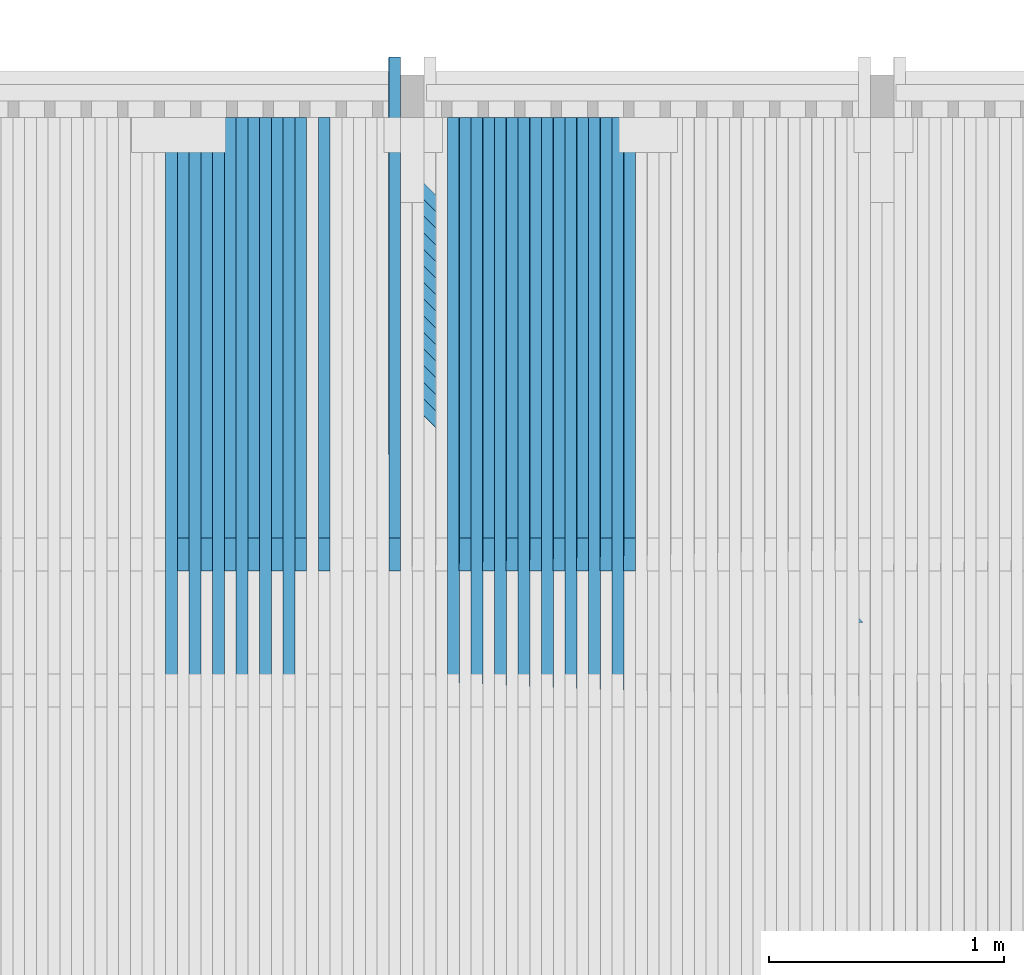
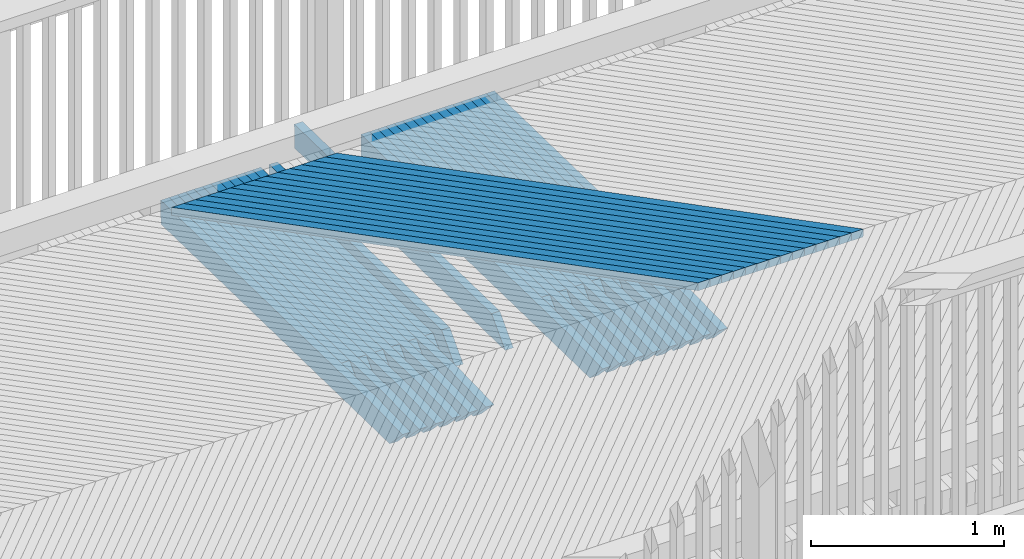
# One storey, part 34 of 52: 44 beams.
"""IFC2X3 building model written with IfcOpenShell, lengths in millimetres."""

from ifc_helpers import new_model, si_unit, frame, origin_with_axes, place, context, subcontext, project, spatial, faceted_brep, material, type_object, element, save


model = new_model("IFC2X3")

# Units and contexts
model_context = context("Model", 3, precision=1e-05, world=origin_with_axes())
body_context = subcontext(model_context, "Body", "Model", "MODEL_VIEW")
ifc_project = project(units=[si_unit("LENGTHUNIT", "METRE", prefix="MILLI"), si_unit("AREAUNIT", "SQUARE_METRE"), si_unit("VOLUMEUNIT", "CUBIC_METRE"), si_unit("MASSUNIT", "GRAM", prefix="KILO"), si_unit("TIMEUNIT", "SECOND"), si_unit("PLANEANGLEUNIT", "RADIAN"), si_unit("SOLIDANGLEUNIT", "STERADIAN"), si_unit("THERMODYNAMICTEMPERATUREUNIT", "DEGREE_CELSIUS"), si_unit("LUMINOUSINTENSITYUNIT", "LUMEN")], contexts=[model_context])

# Site, building, storey
site_placement = place(None, origin_with_axes())
site = spatial("IfcSite", under=ifc_project, at=site_placement, Name="Undefined", CompositionType="ELEMENT")
building_placement = place(site_placement, origin_with_axes())
building = spatial("IfcBuilding", under=site, at=building_placement, Name="Undefined", CompositionType="ELEMENT")
storey_placement = place(building_placement, origin_with_axes())
storey = spatial("IfcBuildingStorey", under=building, at=storey_placement, Name="Undefined", CompositionType="ELEMENT", Elevation=0.0)

# Beams
ifc_material = material(Name="TIMBER/Timber_Undefined")
beam_type_1 = type_object("IfcBeamType", Name="50*50", PredefinedType="NOTDEFINED")
for number, where, z_axis, x_axis, name in (
    (1, (11884.1639920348, 2365.49989967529, 3223.59371167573), (0.707016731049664, 0.706981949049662, -0.0174317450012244), (-0.707181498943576, 0.706948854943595, -0.0108463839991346), "BEAM"),
    (2, (11813.441203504, 2365.49989967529, 3224.04579456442), (0.707018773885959, 0.706981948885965, -0.0173486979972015), (-0.707180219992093, 0.706948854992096, -0.0109294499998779), "BEAM"),
    (3, (11742.718362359, 2365.49989967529, 3224.48957030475), (0.707020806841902, 0.70698194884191, -0.0172656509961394), (-0.707178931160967, 0.706948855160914, -0.0110125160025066), "BEAM"),
    (4, (11671.9954695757, 2365.49989967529, 3224.92503889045), (0.707022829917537, 0.706981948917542, -0.017182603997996), (-0.707177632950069, 0.706948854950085, -0.0110955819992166), "BEAM"),
    (5, (11601.2725261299, 2365.49989967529, 3225.35220031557), (0.707024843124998, 0.706981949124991, -0.0170995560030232), (-0.707176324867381, 0.706948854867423, -0.0111786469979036), "BEAM"),
    (6, (11530.5495329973, 2365.49989967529, 3225.7710545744), (0.707026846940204, 0.706981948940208, -0.0170165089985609), (-0.707175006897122, 0.706948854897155, -0.0112617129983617), "BEAM"),
    (7, (11459.8264911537, 2365.49989967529, 3226.18160166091), (0.7070288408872, 0.706981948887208, -0.0169334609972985), (-0.707173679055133, 0.706948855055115, -0.0113447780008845), "BEAM"),
    (8, (11389.1034015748, 2365.49989967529, 3226.58384156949), (0.707030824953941, 0.706981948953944, -0.0168504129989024), (-0.70717234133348, 0.706948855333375, -0.011427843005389), "BEAM"),
    (9, (11318.3802652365, 2365.49989967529, 3226.97777429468), (0.707032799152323, 0.706981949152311, -0.0167673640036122), (-0.707170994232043, 0.70694885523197, -0.011510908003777), "BEAM"),
    (10, (11247.6570831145, 2365.49989967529, 3227.363399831), (0.707034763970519, 0.706981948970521, -0.0166843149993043), (-0.707169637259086, 0.706948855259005, -0.0115939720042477), "BEAM"),
    (11, (11176.9338561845, 2365.49989967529, 3227.7407181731), (0.707036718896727, 0.706981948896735, -0.0166012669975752), (-0.707168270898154, 0.706948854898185, -0.0116770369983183), "BEAM"),
    (12, (11106.2105854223, 2365.49989967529, 3228.10972931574), (0.707038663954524, 0.706981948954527, -0.0165182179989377), (-0.707166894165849, 0.706948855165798, -0.011760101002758), "BEAM"),
    (13, (11035.4872718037, 2365.49989967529, 3228.47043325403), (0.707040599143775, 0.706981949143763, -0.016435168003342), (-0.707165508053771, 0.706948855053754, -0.0118431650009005), "BEAM"),
    (14, (10964.7639163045, 2365.49989967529, 3228.82282998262), (0.707042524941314, 0.706981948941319, -0.0163521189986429), (-0.707164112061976, 0.706948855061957, -0.0119262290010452), "BEAM"),
):
    element("IfcBeam", number, at=place(storey_placement, frame(where, z_axis=z_axis, x_axis=x_axis)), inside=storey, type_object=beam_type_1, material=ifc_material, Name=name, ObjectType="50*50", context=body_context, shape_type="Brep", body=[
        faceted_brep([(23.5869248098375, 25.0, -25.0000000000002), (-26.4154158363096, 25.0000000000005, 24.9999999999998), (2802.92643296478, 25.0, 24.9999999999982), (2852.92877373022, 25.0000000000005, -25.0), (-25.0011704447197, -25.0, 24.9999999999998), (2804.3406783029, -25.0000000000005, 24.9999999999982), (25.0011701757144, -25.0, -25.0), (2854.34301907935, -24.9999999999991, -25.0)], [[[0, 1, 2, 3]], [[1, 4, 5, 2]], [[4, 6, 7, 5]], [[6, 0, 3, 7]], [[5, 7, 3, 2]], [[6, 4, 1, 0]]]),
    ])
beam_type_2 = type_object("IfcBeamType", Name="150*50", PredefinedType="NOTDEFINED")
beam_1_placement = place(storey_placement, frame((10875.1411031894, 4513.4953923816, 3086.28180497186), z_axis=(0.00469590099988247, 0.0199960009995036, 0.99978903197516), x_axis=(9.39180000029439e-05, -0.999800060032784, 0.0199957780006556)))
element("IfcBeam", 15, at=beam_1_placement, inside=storey, type_object=beam_type_2, material=ifc_material, Name="BEAM", ObjectType="150*50", context=body_context, shape_type="Brep", body=[
    faceted_brep([(-1.67788130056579e-07, -24.9999999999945, -74.9999999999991), (-1.67787220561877e-07, 25.0000000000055, -75.0), (2375.00494422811, 25.0000000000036, -74.9999999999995), (2375.0049444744, -24.9999999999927, -74.9999999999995), (1.67786311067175e-07, -24.9999999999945, 75.0000000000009), (1.67786311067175e-07, 25.0000000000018, 75.0), (2150.42515052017, 25.0000000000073, 75.0), (2510.59248715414, 25.0000000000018, 60.5875433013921), (2510.5924871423, -24.9999999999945, 60.5875430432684), (2150.42514405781, -24.9999999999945, 75.0000000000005)], [[[0, 1, 2, 3]], [[0, 4, 5, 1]], [[2, 1, 5, 6, 7]], [[3, 2, 7, 8]], [[4, 0, 3, 8, 9]], [[5, 4, 9, 6]], [[8, 7, 6, 9]]]),
])
beam_2_placement = place(storey_placement, frame((10925.1605446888, 4513.49539238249, 3086.03855962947), z_axis=(0.00486202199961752, 0.0199960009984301, 0.999788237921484), x_axis=(9.72400000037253e-05, -0.999800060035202, 0.019995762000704)))
element("IfcBeam", 16, at=beam_2_placement, inside=storey, type_object=beam_type_2, material=ifc_material, Name="BEAM", ObjectType="150*50", context=body_context, shape_type="Brep", body=[
    faceted_brep([(-1.67788130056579e-07, -24.9999999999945, -74.9999999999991), (1.67786311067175e-07, -24.9999999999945, 75.0000000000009), (1.67786311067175e-07, 25.0000000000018, 75.0), (-1.67787220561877e-07, 25.0000000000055, -75.0), (1789.96936408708, 24.9999999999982, 75.0000000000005), (1928.42646328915, 24.9999999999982, -74.9999999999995), (1928.42646353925, -25.0, -75.0), (1789.96936433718, -25.0000000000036, 74.9999999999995)], [[[0, 1, 2, 3]], [[3, 2, 4, 5]], [[0, 3, 5, 6]], [[1, 0, 6, 7]], [[2, 1, 7, 4]], [[5, 4, 7, 6]]]),
])
beam_3_placement = place(storey_placement, frame((10775.1221713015, 4513.4953923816, 3086.75121569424), z_axis=(0.00452978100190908, 0.0199960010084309, 0.999789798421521), x_axis=(9.05950000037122e-05, -0.999800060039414, 0.0199957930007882)))
element("IfcBeam", 17, at=beam_3_placement, inside=storey, type_object=beam_type_2, material=ifc_material, Name="BEAM", ObjectType="150*50", context=body_context, shape_type="Brep", body=[
    faceted_brep([(-1.67788130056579e-07, -24.9999999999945, -74.9999999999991), (-1.67787220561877e-07, 25.0000000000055, -75.0), (2375.00494422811, 25.0000000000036, -74.9999999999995), (2375.0049444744, -24.9999999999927, -74.9999999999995), (1.67786311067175e-07, -24.9999999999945, 75.0000000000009), (1.67786311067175e-07, 25.0000000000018, 75.0), (2150.42515052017, 25.0000000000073, 75.0), (2510.59248715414, 25.0000000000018, 60.5875433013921), (2510.5924871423, -24.9999999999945, 60.5875430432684), (2150.42514405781, -24.9999999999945, 75.0000000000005)], [[[0, 1, 2, 3]], [[0, 4, 5, 1]], [[2, 1, 5, 6, 7]], [[3, 2, 7, 8]], [[4, 0, 3, 8, 9]], [[5, 4, 9, 6]], [[8, 7, 6, 9]]]),
])
beam_4_placement = place(storey_placement, frame((10825.141652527, 4513.49539238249, 3086.51628135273), z_axis=(0.00469590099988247, 0.0199960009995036, 0.99978903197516), x_axis=(9.39180000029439e-05, -0.999800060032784, 0.0199957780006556)))
element("IfcBeam", 18, at=beam_4_placement, inside=storey, type_object=beam_type_2, material=ifc_material, Name="BEAM", ObjectType="150*50", context=body_context, shape_type="Brep", body=[
    faceted_brep([(-1.67788130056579e-07, -24.9999999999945, -74.9999999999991), (1.67786311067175e-07, -24.9999999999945, 75.0000000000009), (1.67786311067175e-07, 25.0000000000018, 75.0), (-1.67787220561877e-07, 25.0000000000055, -75.0), (1789.96936408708, 24.9999999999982, 75.0000000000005), (1928.42646328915, 24.9999999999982, -74.9999999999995), (1928.42646353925, -25.0, -75.0), (1789.96936433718, -25.0000000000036, 74.9999999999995)], [[[0, 1, 2, 3]], [[3, 2, 4, 5]], [[0, 3, 5, 6]], [[1, 0, 6, 7]], [[2, 1, 7, 4]], [[5, 4, 7, 6]]]),
])
beam_5_placement = place(storey_placement, frame((10675.1031627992, 4513.4953923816, 3087.20400773), z_axis=(0.00436366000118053, 0.019996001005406, 0.999790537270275), x_axis=(8.72730000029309e-05, -0.999800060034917, 0.0199958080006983)))
element("IfcBeam", 19, at=beam_5_placement, inside=storey, type_object=beam_type_2, material=ifc_material, Name="BEAM", ObjectType="150*50", context=body_context, shape_type="Brep", body=[
    faceted_brep([(-1.67788130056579e-07, -24.9999999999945, -74.9999999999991), (-1.67787220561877e-07, 25.0000000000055, -75.0), (2375.00494422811, 25.0000000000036, -74.9999999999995), (2375.0049444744, -24.9999999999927, -74.9999999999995), (1.67786311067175e-07, -24.9999999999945, 75.0000000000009), (1.67786311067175e-07, 25.0000000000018, 75.0), (2150.42515052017, 25.0000000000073, 75.0), (2510.59248715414, 25.0000000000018, 60.5875433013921), (2510.5924871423, -24.9999999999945, 60.5875430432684), (2150.42514405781, -24.9999999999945, 75.0000000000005)], [[[0, 1, 2, 3]], [[0, 4, 5, 1]], [[2, 1, 5, 6, 7]], [[3, 2, 7, 8]], [[4, 0, 3, 8, 9]], [[5, 4, 9, 6]], [[8, 7, 6, 9]]]),
])
beam_6_placement = place(storey_placement, frame((10725.1226823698, 4513.49539238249, 3086.9773843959), z_axis=(0.00452978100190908, 0.0199960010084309, 0.999789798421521), x_axis=(9.05950000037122e-05, -0.999800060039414, 0.0199957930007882)))
element("IfcBeam", 20, at=beam_6_placement, inside=storey, type_object=beam_type_2, material=ifc_material, Name="BEAM", ObjectType="150*50", context=body_context, shape_type="Brep", body=[
    faceted_brep([(-1.67788130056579e-07, -24.9999999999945, -74.9999999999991), (1.67786311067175e-07, -24.9999999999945, 75.0000000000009), (1.67786311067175e-07, 25.0000000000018, 75.0), (-1.67787220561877e-07, 25.0000000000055, -75.0), (1789.96936408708, 24.9999999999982, 75.0000000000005), (1928.42646328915, 24.9999999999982, -74.9999999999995), (1928.42646353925, -25.0, -75.0), (1789.96936433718, -25.0000000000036, 74.9999999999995)], [[[0, 1, 2, 3]], [[3, 2, 4, 5]], [[0, 3, 5, 6]], [[1, 0, 6, 7]], [[2, 1, 7, 4]], [[5, 4, 7, 6]]]),
])
beam_7_placement = place(storey_placement, frame((10575.0840804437, 4513.4953923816, 3087.64018106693), z_axis=(0.00419753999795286, 0.0199960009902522, 0.99979124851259), x_axis=(8.39510000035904e-05, -0.999800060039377, 0.0199958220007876)))
element("IfcBeam", 21, at=beam_7_placement, inside=storey, type_object=beam_type_2, material=ifc_material, Name="BEAM", ObjectType="150*50", context=body_context, shape_type="Brep", body=[
    faceted_brep([(-1.67788130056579e-07, -24.9999999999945, -74.9999999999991), (-1.67787220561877e-07, 25.0000000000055, -75.0), (2375.00494422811, 25.0000000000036, -74.9999999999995), (2375.0049444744, -24.9999999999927, -74.9999999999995), (1.67786311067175e-07, -24.9999999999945, 75.0000000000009), (1.67786311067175e-07, 25.0000000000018, 75.0), (2150.42515052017, 25.0000000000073, 75.0), (2510.59248715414, 25.0000000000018, 60.5875433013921), (2510.5924871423, -24.9999999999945, 60.5875430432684), (2150.42514405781, -24.9999999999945, 75.0000000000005)], [[[0, 1, 2, 3]], [[0, 4, 5, 1]], [[2, 1, 5, 6, 7]], [[3, 2, 7, 8]], [[4, 0, 3, 8, 9]], [[5, 4, 9, 6]], [[8, 7, 6, 9]]]),
])
beam_8_placement = place(storey_placement, frame((10625.1036369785, 4513.49539238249, 3087.4218687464), z_axis=(0.00436366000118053, 0.019996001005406, 0.999790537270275), x_axis=(8.72730000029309e-05, -0.999800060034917, 0.0199958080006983)))
element("IfcBeam", 22, at=beam_8_placement, inside=storey, type_object=beam_type_2, material=ifc_material, Name="BEAM", ObjectType="150*50", context=body_context, shape_type="Brep", body=[
    faceted_brep([(-1.67788130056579e-07, -24.9999999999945, -74.9999999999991), (1.67786311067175e-07, -24.9999999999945, 75.0000000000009), (1.67786311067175e-07, 25.0000000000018, 75.0), (-1.67787220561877e-07, 25.0000000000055, -75.0), (1789.96936408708, 24.9999999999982, 75.0000000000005), (1928.42646328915, 24.9999999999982, -74.9999999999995), (1928.42646353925, -25.0, -75.0), (1789.96936433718, -25.0000000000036, 74.9999999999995)], [[[0, 1, 2, 3]], [[3, 2, 4, 5]], [[0, 3, 5, 6]], [[1, 0, 6, 7]], [[2, 1, 7, 4]], [[5, 4, 7, 6]]]),
])
beam_9_placement = place(storey_placement, frame((10475.0649269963, 4513.4953923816, 3088.05973569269), z_axis=(0.00403141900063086, 0.0199960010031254, 0.999791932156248), x_axis=(8.06280000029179e-05, -0.999800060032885, 0.0199958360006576)))
element("IfcBeam", 23, at=beam_9_placement, inside=storey, type_object=beam_type_2, material=ifc_material, Name="BEAM", ObjectType="150*50", context=body_context, shape_type="Brep", body=[
    faceted_brep([(-1.67788130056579e-07, -24.9999999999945, -74.9999999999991), (-1.67787220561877e-07, 25.0000000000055, -75.0), (2375.00494422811, 25.0000000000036, -74.9999999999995), (2375.0049444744, -24.9999999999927, -74.9999999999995), (1.67786311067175e-07, -24.9999999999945, 75.0000000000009), (1.67786311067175e-07, 25.0000000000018, 75.0), (2150.42515052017, 25.0000000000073, 75.0), (2510.59248715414, 25.0000000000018, 60.5875433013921), (2510.5924871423, -24.9999999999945, 60.5875430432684), (2150.42514405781, -24.9999999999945, 75.0000000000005)], [[[0, 1, 2, 3]], [[0, 4, 5, 1]], [[2, 1, 5, 6, 7]], [[3, 2, 7, 8]], [[4, 0, 3, 8, 9]], [[5, 4, 9, 6]], [[8, 7, 6, 9]]]),
])
beam_10_placement = place(storey_placement, frame((10525.0845191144, 4513.49539238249, 3087.84973439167), z_axis=(0.00419753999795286, 0.0199960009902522, 0.99979124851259), x_axis=(8.39510000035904e-05, -0.999800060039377, 0.0199958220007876)))
element("IfcBeam", 24, at=beam_10_placement, inside=storey, type_object=beam_type_2, material=ifc_material, Name="BEAM", ObjectType="150*50", context=body_context, shape_type="Brep", body=[
    faceted_brep([(-1.67788130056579e-07, -24.9999999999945, -74.9999999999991), (1.67786311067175e-07, -24.9999999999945, 75.0000000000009), (1.67786311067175e-07, 25.0000000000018, 75.0), (-1.67787220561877e-07, 25.0000000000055, -75.0), (1789.96936408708, 24.9999999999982, 75.0000000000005), (1928.42646328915, 24.9999999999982, -74.9999999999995), (1928.42646353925, -25.0, -75.0), (1789.96936433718, -25.0000000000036, 74.9999999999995)], [[[0, 1, 2, 3]], [[3, 2, 4, 5]], [[0, 3, 5, 6]], [[1, 0, 6, 7]], [[2, 1, 7, 4]], [[5, 4, 7, 6]]]),
])
beam_11_placement = place(storey_placement, frame((10375.0457052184, 4513.4953923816, 3088.46267159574), z_axis=(0.00386529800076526, 0.0199960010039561, 0.99979258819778), x_axis=(7.73060000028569e-05, -0.999800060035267, 0.0199958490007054)))
element("IfcBeam", 25, at=beam_11_placement, inside=storey, type_object=beam_type_2, material=ifc_material, Name="BEAM", ObjectType="150*50", context=body_context, shape_type="Brep", body=[
    faceted_brep([(-1.67788130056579e-07, -24.9999999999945, -74.9999999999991), (-1.67787220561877e-07, 25.0000000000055, -75.0), (2375.00494422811, 25.0000000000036, -74.9999999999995), (2375.0049444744, -24.9999999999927, -74.9999999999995), (1.67786311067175e-07, -24.9999999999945, 75.0000000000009), (1.67786311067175e-07, 25.0000000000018, 75.0), (2150.42515052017, 25.0000000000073, 75.0), (2510.59248715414, 25.0000000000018, 60.5875433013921), (2510.5924871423, -24.9999999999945, 60.5875430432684), (2150.42514405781, -24.9999999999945, 75.0000000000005)], [[[0, 1, 2, 3]], [[0, 4, 5, 1]], [[2, 1, 5, 6, 7]], [[3, 2, 7, 8]], [[4, 0, 3, 8, 9]], [[5, 4, 9, 6]], [[8, 7, 6, 9]]]),
])
beam_12_placement = place(storey_placement, frame((10425.0653315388, 4513.49539238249, 3088.26098132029), z_axis=(0.00403141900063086, 0.0199960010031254, 0.999791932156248), x_axis=(8.06280000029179e-05, -0.999800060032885, 0.0199958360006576)))
element("IfcBeam", 26, at=beam_12_placement, inside=storey, type_object=beam_type_2, material=ifc_material, Name="BEAM", ObjectType="150*50", context=body_context, shape_type="Brep", body=[
    faceted_brep([(-1.67788130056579e-07, -24.9999999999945, -74.9999999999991), (1.67786311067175e-07, -24.9999999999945, 75.0000000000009), (1.67786311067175e-07, 25.0000000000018, 75.0), (-1.67787220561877e-07, 25.0000000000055, -75.0), (1789.96936408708, 24.9999999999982, 75.0000000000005), (1928.42646328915, 24.9999999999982, -74.9999999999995), (1928.42646353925, -25.0, -75.0), (1789.96936433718, -25.0000000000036, 74.9999999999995)], [[[0, 1, 2, 3]], [[3, 2, 4, 5]], [[0, 3, 5, 6]], [[1, 0, 6, 7]], [[2, 1, 7, 4]], [[5, 4, 7, 6]]]),
])
beam_13_placement = place(storey_placement, frame((10275.0264178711, 4513.4953923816, 3088.84898876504), z_axis=(0.00369917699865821, 0.0199960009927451, 0.999793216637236), x_axis=(7.39830000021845e-05, -0.999800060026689, 0.0199958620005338)))
element("IfcBeam", 27, at=beam_13_placement, inside=storey, type_object=beam_type_2, material=ifc_material, Name="BEAM", ObjectType="150*50", context=body_context, shape_type="Brep", body=[
    faceted_brep([(-1.67788130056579e-07, -24.9999999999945, -74.9999999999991), (-1.67787220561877e-07, 25.0000000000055, -75.0), (2375.00494422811, 25.0000000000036, -74.9999999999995), (2375.0049444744, -24.9999999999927, -74.9999999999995), (1.67786311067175e-07, -24.9999999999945, 75.0000000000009), (1.67786311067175e-07, 25.0000000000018, 75.0), (2150.42515052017, 25.0000000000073, 75.0), (2510.59248715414, 25.0000000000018, 60.5875433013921), (2510.5924871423, -24.9999999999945, 60.5875430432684), (2150.42514405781, -24.9999999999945, 75.0000000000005)], [[[0, 1, 2, 3]], [[0, 4, 5, 1]], [[2, 1, 5, 6, 7]], [[3, 2, 7, 8]], [[4, 0, 3, 8, 9]], [[5, 4, 9, 6]], [[8, 7, 6, 9]]]),
])
beam_14_placement = place(storey_placement, frame((10325.046077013, 4513.49539238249, 3088.65560952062), z_axis=(0.00386529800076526, 0.0199960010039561, 0.99979258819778), x_axis=(7.73060000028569e-05, -0.999800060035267, 0.0199958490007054)))
element("IfcBeam", 28, at=beam_14_placement, inside=storey, type_object=beam_type_2, material=ifc_material, Name="BEAM", ObjectType="150*50", context=body_context, shape_type="Brep", body=[
    faceted_brep([(-1.67788130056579e-07, -24.9999999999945, -74.9999999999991), (1.67786311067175e-07, -24.9999999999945, 75.0000000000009), (1.67786311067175e-07, 25.0000000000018, 75.0), (-1.67787220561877e-07, 25.0000000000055, -75.0), (1789.96936408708, 24.9999999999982, 75.0000000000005), (1928.42646328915, 24.9999999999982, -74.9999999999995), (1928.42646353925, -25.0, -75.0), (1789.96936433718, -25.0000000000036, 74.9999999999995)], [[[0, 1, 2, 3]], [[3, 2, 4, 5]], [[0, 3, 5, 6]], [[1, 0, 6, 7]], [[2, 1, 7, 4]], [[5, 4, 7, 6]]]),
])
beam_15_placement = place(storey_placement, frame((10175.0070677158, 4513.4953923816, 3089.21868718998), z_axis=(0.00353305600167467, 0.0199960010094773, 0.999793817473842), x_axis=(7.06610000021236e-05, -0.999800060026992, 0.0199958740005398)))
element("IfcBeam", 29, at=beam_15_placement, inside=storey, type_object=beam_type_2, material=ifc_material, Name="BEAM", ObjectType="150*50", context=body_context, shape_type="Brep", body=[
    faceted_brep([(-1.67788130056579e-07, -24.9999999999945, -74.9999999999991), (-1.67787220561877e-07, 25.0000000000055, -75.0), (2375.00494422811, 25.0000000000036, -74.9999999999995), (2375.0049444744, -24.9999999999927, -74.9999999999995), (1.67786311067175e-07, -24.9999999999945, 75.0000000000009), (1.67786311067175e-07, 25.0000000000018, 75.0), (2150.42515052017, 25.0000000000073, 75.0), (2510.59248715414, 25.0000000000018, 60.5875433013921), (2510.5924871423, -24.9999999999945, 60.5875430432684), (2150.42514405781, -24.9999999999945, 75.0000000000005)], [[[0, 1, 2, 3]], [[0, 4, 5, 1]], [[2, 1, 5, 6, 7]], [[3, 2, 7, 8]], [[4, 0, 3, 8, 9]], [[5, 4, 9, 6]], [[8, 7, 6, 9]]]),
])
for number, where, z_axis, x_axis, name in (
    (30, (10225.0267582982, 4513.49539238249, 3089.03361898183), (0.00369917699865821, 0.0199960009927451, 0.999793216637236), (7.39830000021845e-05, -0.999800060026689, 0.0199958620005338), "BEAM"),
    (31, (9625.5096525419, 4513.49539238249, 3090.9530804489), (0.00270244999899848, 0.0199960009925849, 0.999796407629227), (5.40480000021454e-05, -0.999800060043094, 0.0199959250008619), "BEAM"),
):
    element("IfcBeam", number, at=place(storey_placement, frame(where, z_axis=z_axis, x_axis=x_axis)), inside=storey, type_object=beam_type_2, material=ifc_material, Name=name, ObjectType="150*50", context=body_context, shape_type="Brep", body=[
        faceted_brep([(-1.67788130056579e-07, -24.9999999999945, -74.9999999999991), (1.67786311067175e-07, -24.9999999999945, 75.0000000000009), (1.67786311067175e-07, 25.0000000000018, 75.0), (-1.67787220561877e-07, 25.0000000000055, -75.0), (1789.96936408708, 24.9999999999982, 75.0000000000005), (1928.42646328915, 24.9999999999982, -74.9999999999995), (1928.42646353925, -25.0, -75.0), (1789.96936433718, -25.0000000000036, 74.9999999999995)], [[[0, 1, 2, 3]], [[3, 2, 4, 5]], [[0, 3, 5, 6]], [[1, 0, 6, 7]], [[2, 1, 7, 4]], [[5, 4, 7, 6]]]),
    ])
beam_16_placement = place(storey_placement, frame((9475.470089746, 4513.4953923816, 3091.34174898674), z_axis=(0.00237020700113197, 0.0199960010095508, 0.999797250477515), x_axis=(4.74040000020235e-05, -0.999800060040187, 0.0199959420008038)))
element("IfcBeam", 32, at=beam_16_placement, inside=storey, type_object=beam_type_2, material=ifc_material, Name="BEAM", ObjectType="150*50", context=body_context, shape_type="Brep", body=[
    faceted_brep([(-1.67788130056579e-07, -24.9999999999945, -74.9999999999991), (-1.67787220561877e-07, 25.0000000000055, -75.0), (2375.00494422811, 25.0000000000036, -74.9999999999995), (2375.0049444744, -24.9999999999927, -74.9999999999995), (1.67786311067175e-07, -24.9999999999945, 75.0000000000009), (1.67786311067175e-07, 25.0000000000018, 75.0), (2150.42515052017, 25.0000000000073, 75.0), (2510.59248715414, 25.0000000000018, 60.5875433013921), (2510.5924871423, -24.9999999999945, 60.5875430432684), (2150.42514405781, -24.9999999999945, 75.0000000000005)], [[[0, 1, 2, 3]], [[0, 4, 5, 1]], [[2, 1, 5, 6, 7]], [[3, 2, 7, 8]], [[4, 0, 3, 8, 9]], [[5, 4, 9, 6]], [[8, 7, 6, 9]]]),
])
beam_17_placement = place(storey_placement, frame((9525.48996174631, 4513.49539238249, 3091.21485816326), z_axis=(0.0025363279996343, 0.0199960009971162, 0.999796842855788), x_axis=(5.07260000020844e-05, -0.999800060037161, 0.0199959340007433)))
element("IfcBeam", 33, at=beam_17_placement, inside=storey, type_object=beam_type_2, material=ifc_material, Name="BEAM", ObjectType="150*50", context=body_context, shape_type="Brep", body=[
    faceted_brep([(-1.67788130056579e-07, -24.9999999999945, -74.9999999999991), (1.67786311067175e-07, -24.9999999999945, 75.0000000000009), (1.67786311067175e-07, 25.0000000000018, 75.0), (-1.67787220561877e-07, 25.0000000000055, -75.0), (1789.96936408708, 24.9999999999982, 75.0000000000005), (1928.42646328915, 24.9999999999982, -74.9999999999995), (1928.42646353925, -25.0, -75.0), (1789.96936433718, -25.0000000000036, 74.9999999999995)], [[[0, 1, 2, 3]], [[3, 2, 4, 5]], [[0, 3, 5, 6]], [[1, 0, 6, 7]], [[2, 1, 7, 4]], [[5, 4, 7, 6]]]),
])
beam_18_placement = place(storey_placement, frame((9375.45033644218, 4513.4953923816, 3091.57859682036), z_axis=(0.00220408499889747, 0.0199960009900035, 0.999797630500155), x_axis=(4.4081000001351e-05, -0.999800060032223, 0.0199959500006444)))
element("IfcBeam", 34, at=beam_18_placement, inside=storey, type_object=beam_type_2, material=ifc_material, Name="BEAM", ObjectType="150*50", context=body_context, shape_type="Brep", body=[
    faceted_brep([(-1.67788130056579e-07, -24.9999999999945, -74.9999999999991), (-1.67787220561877e-07, 25.0000000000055, -75.0), (2375.00494422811, 25.0000000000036, -74.9999999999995), (2375.0049444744, -24.9999999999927, -74.9999999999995), (1.67786311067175e-07, -24.9999999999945, 75.0000000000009), (1.67786311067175e-07, 25.0000000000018, 75.0), (2150.42515052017, 25.0000000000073, 75.0), (2510.59248715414, 25.0000000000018, 60.5875433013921), (2510.5924871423, -24.9999999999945, 60.5875430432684), (2150.42514405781, -24.9999999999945, 75.0000000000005)], [[[0, 1, 2, 3]], [[0, 4, 5, 1]], [[2, 1, 5, 6, 7]], [[3, 2, 7, 8]], [[4, 0, 3, 8, 9]], [[5, 4, 9, 6]], [[8, 7, 6, 9]]]),
])
beam_19_placement = place(storey_placement, frame((9425.47022883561, 4513.49539238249, 3091.46001706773), z_axis=(0.00237020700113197, 0.0199960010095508, 0.999797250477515), x_axis=(4.74040000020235e-05, -0.999800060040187, 0.0199959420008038)))
element("IfcBeam", 35, at=beam_19_placement, inside=storey, type_object=beam_type_2, material=ifc_material, Name="BEAM", ObjectType="150*50", context=body_context, shape_type="Brep", body=[
    faceted_brep([(-1.67788130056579e-07, -24.9999999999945, -74.9999999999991), (1.67786311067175e-07, -24.9999999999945, 75.0000000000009), (1.67786311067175e-07, 25.0000000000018, 75.0), (-1.67787220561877e-07, 25.0000000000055, -75.0), (1789.96936408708, 24.9999999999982, 75.0000000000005), (1928.42646328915, 24.9999999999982, -74.9999999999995), (1928.42646353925, -25.0, -75.0), (1789.96936433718, -25.0000000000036, 74.9999999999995)], [[[0, 1, 2, 3]], [[3, 2, 4, 5]], [[0, 3, 5, 6]], [[1, 0, 6, 7]], [[2, 1, 7, 4]], [[5, 4, 7, 6]]]),
])
beam_20_placement = place(storey_placement, frame((9275.43054516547, 4513.4953923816, 3091.79882583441), z_axis=(0.00203796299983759, 0.0199960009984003, 0.999797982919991), x_axis=(4.07590000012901e-05, -0.999800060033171, 0.0199959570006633)))
element("IfcBeam", 36, at=beam_20_placement, inside=storey, type_object=beam_type_2, material=ifc_material, Name="BEAM", ObjectType="150*50", context=body_context, shape_type="Brep", body=[
    faceted_brep([(-1.67788130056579e-07, -24.9999999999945, -74.9999999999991), (-1.67787220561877e-07, 25.0000000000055, -75.0), (2375.00494422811, 25.0000000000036, -74.9999999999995), (2375.0049444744, -24.9999999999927, -74.9999999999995), (1.67786311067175e-07, -24.9999999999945, 75.0000000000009), (1.67786311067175e-07, 25.0000000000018, 75.0), (2150.42515052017, 25.0000000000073, 75.0), (2510.59248715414, 25.0000000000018, 60.5875433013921), (2510.5924871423, -24.9999999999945, 60.5875430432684), (2150.42514405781, -24.9999999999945, 75.0000000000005)], [[[0, 1, 2, 3]], [[0, 4, 5, 1]], [[2, 1, 5, 6, 7]], [[3, 2, 7, 8]], [[4, 0, 3, 8, 9]], [[5, 4, 9, 6]], [[8, 7, 6, 9]]]),
])
beam_21_placement = place(storey_placement, frame((9325.4504565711, 4513.49539238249, 3091.68855715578), z_axis=(0.00220408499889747, 0.0199960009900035, 0.999797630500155), x_axis=(4.4081000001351e-05, -0.999800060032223, 0.0199959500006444)))
element("IfcBeam", 37, at=beam_21_placement, inside=storey, type_object=beam_type_2, material=ifc_material, Name="BEAM", ObjectType="150*50", context=body_context, shape_type="Brep", body=[
    faceted_brep([(-1.67788130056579e-07, -24.9999999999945, -74.9999999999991), (1.67786311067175e-07, -24.9999999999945, 75.0000000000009), (1.67786311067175e-07, 25.0000000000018, 75.0), (-1.67787220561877e-07, 25.0000000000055, -75.0), (1789.96936408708, 24.9999999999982, 75.0000000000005), (1928.42646328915, 24.9999999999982, -74.9999999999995), (1928.42646353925, -25.0, -75.0), (1789.96936433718, -25.0000000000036, 74.9999999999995)], [[[0, 1, 2, 3]], [[3, 2, 4, 5]], [[0, 3, 5, 6]], [[1, 0, 6, 7]], [[2, 1, 7, 4]], [[5, 4, 7, 6]]]),
])
beam_22_placement = place(storey_placement, frame((9175.41071867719, 4513.4953923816, 3092.00243602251), z_axis=(0.00187184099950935, 0.0199960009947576, 0.999798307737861), x_axis=(3.7436000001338e-05, -0.999800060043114, 0.0199959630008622)))
element("IfcBeam", 38, at=beam_22_placement, inside=storey, type_object=beam_type_2, material=ifc_material, Name="BEAM", ObjectType="150*50", context=body_context, shape_type="Brep", body=[
    faceted_brep([(-1.67788130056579e-07, -24.9999999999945, -74.9999999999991), (-1.67787220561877e-07, 25.0000000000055, -75.0), (2375.00494422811, 25.0000000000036, -74.9999999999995), (2375.0049444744, -24.9999999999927, -74.9999999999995), (1.67786311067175e-07, -24.9999999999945, 75.0000000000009), (1.67786311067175e-07, 25.0000000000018, 75.0), (2150.42515052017, 25.0000000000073, 75.0), (2510.59248715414, 25.0000000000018, 60.5875433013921), (2510.5924871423, -24.9999999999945, 60.5875430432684), (2150.42514405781, -24.9999999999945, 75.0000000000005)], [[[0, 1, 2, 3]], [[0, 4, 5, 1]], [[2, 1, 5, 6, 7]], [[3, 2, 7, 8]], [[4, 0, 3, 8, 9]], [[5, 4, 9, 6]], [[8, 7, 6, 9]]]),
])
beam_23_placement = place(storey_placement, frame((9225.43064771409, 4513.49539238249, 3091.9004784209), z_axis=(0.00203796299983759, 0.0199960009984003, 0.999797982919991), x_axis=(4.07590000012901e-05, -0.999800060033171, 0.0199959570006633)))
element("IfcBeam", 39, at=beam_23_placement, inside=storey, type_object=beam_type_2, material=ifc_material, Name="BEAM", ObjectType="150*50", context=body_context, shape_type="Brep", body=[
    faceted_brep([(-1.67788130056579e-07, -24.9999999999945, -74.9999999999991), (1.67786311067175e-07, -24.9999999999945, 75.0000000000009), (1.67786311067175e-07, 25.0000000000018, 75.0), (-1.67787220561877e-07, 25.0000000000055, -75.0), (1789.96936408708, 24.9999999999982, 75.0000000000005), (1928.42646328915, 24.9999999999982, -74.9999999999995), (1928.42646353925, -25.0, -75.0), (1789.96936433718, -25.0000000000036, 74.9999999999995)], [[[0, 1, 2, 3]], [[3, 2, 4, 5]], [[0, 3, 5, 6]], [[1, 0, 6, 7]], [[2, 1, 7, 4]], [[5, 4, 7, 6]]]),
])
beam_24_placement = place(storey_placement, frame((9075.39085973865, 4513.4953923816, 3092.18942737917), z_axis=(0.00170571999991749, 0.0199960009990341, 0.999798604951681), x_axis=(3.41140000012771e-05, -0.999800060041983, 0.0199959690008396)))
element("IfcBeam", 40, at=beam_24_placement, inside=storey, type_object=beam_type_2, material=ifc_material, Name="BEAM", ObjectType="150*50", context=body_context, shape_type="Brep", body=[
    faceted_brep([(-1.67788130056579e-07, -24.9999999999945, -74.9999999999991), (-1.67787220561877e-07, 25.0000000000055, -75.0), (2375.00494422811, 25.0000000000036, -74.9999999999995), (2375.0049444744, -24.9999999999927, -74.9999999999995), (1.67786311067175e-07, -24.9999999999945, 75.0000000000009), (1.67786311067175e-07, 25.0000000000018, 75.0), (2150.42515052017, 25.0000000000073, 75.0), (2510.59248715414, 25.0000000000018, 60.5875433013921), (2510.5924871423, -24.9999999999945, 60.5875430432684), (2150.42514405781, -24.9999999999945, 75.0000000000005)], [[[0, 1, 2, 3]], [[0, 4, 5, 1]], [[2, 1, 5, 6, 7]], [[3, 2, 7, 8]], [[4, 0, 3, 8, 9]], [[5, 4, 9, 6]], [[8, 7, 6, 9]]]),
])
beam_25_placement = place(storey_placement, frame((9125.41080502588, 4513.49539238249, 3092.09578085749), z_axis=(0.00187184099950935, 0.0199960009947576, 0.999798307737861), x_axis=(3.7436000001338e-05, -0.999800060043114, 0.0199959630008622)))
element("IfcBeam", 41, at=beam_25_placement, inside=storey, type_object=beam_type_2, material=ifc_material, Name="BEAM", ObjectType="150*50", context=body_context, shape_type="Brep", body=[
    faceted_brep([(-1.67788130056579e-07, -24.9999999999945, -74.9999999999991), (1.67786311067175e-07, -24.9999999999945, 75.0000000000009), (1.67786311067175e-07, 25.0000000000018, 75.0), (-1.67787220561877e-07, 25.0000000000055, -75.0), (1789.96936408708, 24.9999999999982, 75.0000000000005), (1928.42646328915, 24.9999999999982, -74.9999999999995), (1928.42646353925, -25.0, -75.0), (1789.96936433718, -25.0000000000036, 74.9999999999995)], [[[0, 1, 2, 3]], [[3, 2, 4, 5]], [[0, 3, 5, 6]], [[1, 0, 6, 7]], [[2, 1, 7, 4]], [[5, 4, 7, 6]]]),
])
beam_26_placement = place(storey_placement, frame((8975.37097111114, 4513.4953923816, 3092.35979989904), z_axis=(0.00153959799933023, 0.0199960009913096, 0.999798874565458), x_axis=(3.0791000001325e-05, -0.999800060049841, 0.0199959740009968)))
element("IfcBeam", 42, at=beam_26_placement, inside=storey, type_object=beam_type_2, material=ifc_material, Name="BEAM", ObjectType="150*50", context=body_context, shape_type="Brep", body=[
    faceted_brep([(-1.67788130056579e-07, -24.9999999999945, -74.9999999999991), (-1.67787220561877e-07, 25.0000000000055, -75.0), (2375.00494422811, 25.0000000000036, -74.9999999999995), (2375.0049444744, -24.9999999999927, -74.9999999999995), (1.67786311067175e-07, -24.9999999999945, 75.0000000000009), (1.67786311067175e-07, 25.0000000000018, 75.0), (2150.42515052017, 25.0000000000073, 75.0), (2510.59248715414, 25.0000000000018, 60.5875433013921), (2510.5924871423, -24.9999999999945, 60.5875430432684), (2150.42514405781, -24.9999999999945, 75.0000000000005)], [[[0, 1, 2, 3]], [[0, 4, 5, 1]], [[2, 1, 5, 6, 7]], [[3, 2, 7, 8]], [[4, 0, 3, 8, 9]], [[5, 4, 9, 6]], [[8, 7, 6, 9]]]),
])
beam_27_placement = place(storey_placement, frame((9025.39093126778, 4513.49539238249, 3092.27446445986), z_axis=(0.00170571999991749, 0.0199960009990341, 0.999798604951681), x_axis=(3.41140000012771e-05, -0.999800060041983, 0.0199959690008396)))
element("IfcBeam", 43, at=beam_27_placement, inside=storey, type_object=beam_type_2, material=ifc_material, Name="BEAM", ObjectType="150*50", context=body_context, shape_type="Brep", body=[
    faceted_brep([(-1.67788130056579e-07, -24.9999999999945, -74.9999999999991), (1.67786311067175e-07, -24.9999999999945, 75.0000000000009), (1.67786311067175e-07, 25.0000000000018, 75.0), (-1.67787220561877e-07, 25.0000000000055, -75.0), (1789.96936408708, 24.9999999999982, 75.0000000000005), (1928.42646328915, 24.9999999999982, -74.9999999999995), (1928.42646353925, -25.0, -75.0), (1789.96936433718, -25.0000000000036, 74.9999999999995)], [[[0, 1, 2, 3]], [[3, 2, 4, 5]], [[0, 3, 5, 6]], [[1, 0, 6, 7]], [[2, 1, 7, 4]], [[5, 4, 7, 6]]]),
])
beam_28_placement = place(storey_placement, frame((9925.02575940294, 4771.44380785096, 3084.90904920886), z_axis=(0.00320081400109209, 0.0199960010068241, 0.999794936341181), x_axis=(6.40160000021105e-05, -0.999800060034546, 0.0199958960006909)))
element("IfcBeam", 44, at=beam_28_placement, inside=storey, type_object=beam_type_2, material=ifc_material, Name="BEAM", ObjectType="150*50", context=body_context, shape_type="Brep", body=[
    faceted_brep([(-1.67788130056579e-07, -24.9999999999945, -74.9999999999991), (1.67786311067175e-07, -24.9999999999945, 75.0000000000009), (1.67786311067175e-07, 25.0000000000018, 75.0), (-1.67787220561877e-07, 25.0000000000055, -75.0), (2047.9693678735, 25.0, 75.0), (2186.42646676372, 24.9999999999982, -75.0), (2186.42645144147, -25.0, -75.0), (2047.96935255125, -25.0, 75.0)], [[[0, 1, 2, 3]], [[3, 2, 4, 5]], [[0, 3, 5, 6]], [[1, 0, 6, 7]], [[2, 1, 7, 4]], [[5, 4, 7, 6]]]),
])

save(model, "model.ifc")
